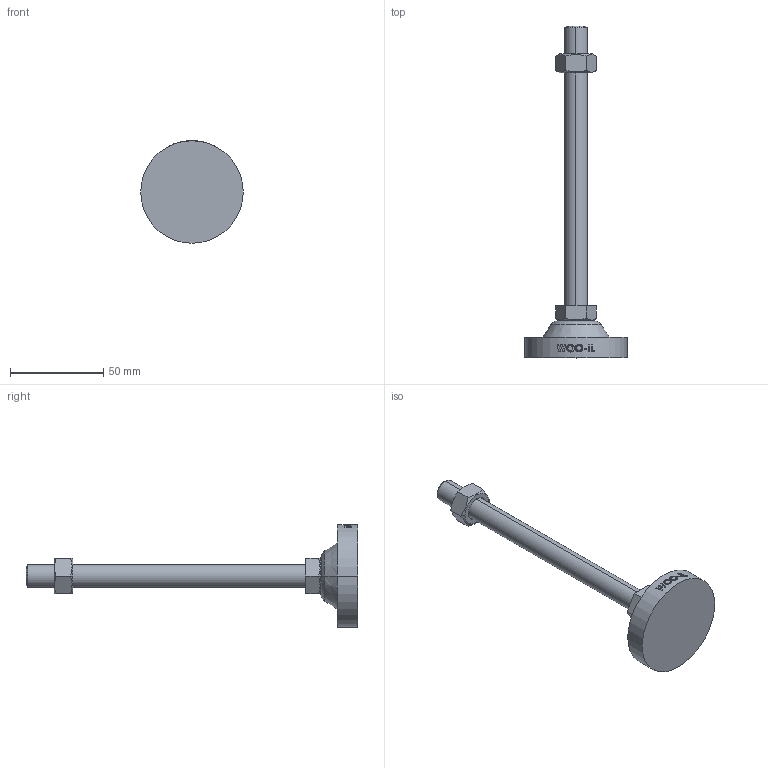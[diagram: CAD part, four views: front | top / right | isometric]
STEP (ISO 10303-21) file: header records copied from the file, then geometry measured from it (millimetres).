
FILE_DESCRIPTION (( 'STEP AP214' ), '1' );
FILE_NAME ('RB55-M12-150.step', '2021-01-18T05:49:07', ( '' ), ( '' ), 'SwSTEP 2.0', 'SolidWorks 2019', '' );
FILE_SCHEMA (( 'AUTOMOTIVE_DESIGN' ));
Length unit declared in the file: millimetre
Products named in the file (2): RB55-M12-150
Bounding box: 55 x 178 x 55 mm (x, y, z)
Volume: 50928 mm3; surface area: 16301.9 mm2
Topology: 2 solids, 3 shells, 128 faces, 317 edges, 206 vertices
Faces by surface type: plane 48, cylinder 42, bspline 18, cone 16, torus 4
Entity records: 5349 total; most frequent: CARTESIAN_POINT 2507, ORIENTED_EDGE 634, DIRECTION 479, EDGE_CURVE 317, VERTEX_POINT 206, AXIS2_PLACEMENT_3D 176, EDGE_LOOP 141, FACE_OUTER_BOUND 128
